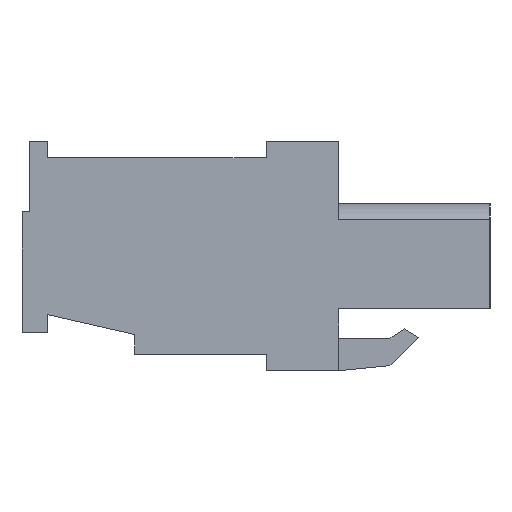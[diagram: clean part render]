
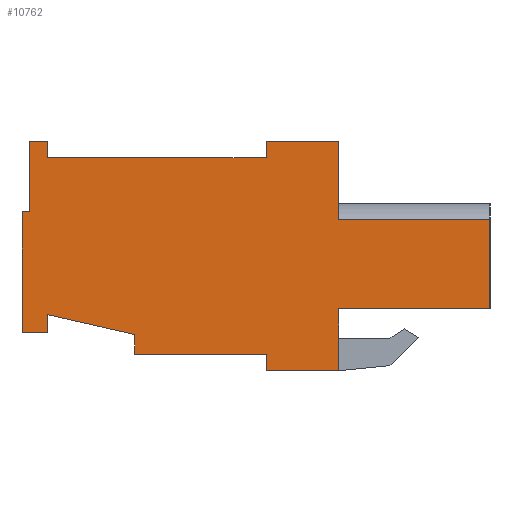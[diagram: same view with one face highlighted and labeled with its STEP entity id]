
A CAD part, left-side view. The second image highlights one B-rep face of the part: STEP entity #10762.
In plain terms, the highlighted planar face has unit normal (-1, 0, 0).
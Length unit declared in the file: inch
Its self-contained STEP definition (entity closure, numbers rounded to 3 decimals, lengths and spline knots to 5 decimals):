
#1=DIRECTION('',(0.,1.,0.));
#2=VECTOR('',#1,0.33);
#3=CARTESIAN_POINT('',(-1.2795,-0.33,0.08));
#4=LINE('',#3,#2);
#5=DIRECTION('',(0.,0.,-1.));
#6=VECTOR('',#5,0.195);
#7=CARTESIAN_POINT('',(-1.2795,-0.33,0.08));
#8=LINE('',#7,#6);
#9=DIRECTION('',(0.,1.,0.));
#10=VECTOR('',#9,0.33);
#11=CARTESIAN_POINT('',(-1.2795,-0.33,-0.115));
#12=LINE('',#11,#10);
#13=DIRECTION('',(0.,0.,-1.));
#14=VECTOR('',#13,0.135);
#15=CARTESIAN_POINT('',(-1.2795,0.,-0.115));
#16=LINE('',#15,#14);
#17=DIRECTION('',(0.,1.,0.));
#18=VECTOR('',#17,0.158);
#19=CARTESIAN_POINT('',(-1.2795,0.,-0.25));
#20=LINE('',#19,#18);
#21=DIRECTION('',(0.,0.,1.));
#22=VECTOR('',#21,0.0355);
#23=CARTESIAN_POINT('',(-1.2795,0.158,-0.25));
#24=LINE('',#23,#22);
#25=DIRECTION('',(0.,1.,0.));
#26=VECTOR('',#25,0.28594);
#27=CARTESIAN_POINT('',(-1.2795,0.158,-0.2145));
#28=LINE('',#27,#26);
#29=DIRECTION('',(0.,0.,1.));
#30=VECTOR('',#29,0.04341);
#31=CARTESIAN_POINT('',(-1.2795,0.44394,-0.2145));
#32=LINE('',#31,#30);
#33=DIRECTION('',(0.,0.975,0.222));
#34=VECTOR('',#33,0.19543);
#35=CARTESIAN_POINT('',(-1.2795,0.44394,-0.17109));
#36=LINE('',#35,#34);
#37=DIRECTION('',(0.,0.,-1.));
#38=VECTOR('',#37,0.03937);
#39=CARTESIAN_POINT('',(-1.2795,0.6345,-0.12776));
#40=LINE('',#39,#38);
#41=DIRECTION('',(0.,1.,0.));
#42=VECTOR('',#41,0.0555);
#43=CARTESIAN_POINT('',(-1.2795,0.6345,-0.16713));
#44=LINE('',#43,#42);
#45=DIRECTION('',(0.,0.,1.));
#46=VECTOR('',#45,0.26368);
#47=CARTESIAN_POINT('',(-1.2795,0.69,-0.16713));
#48=LINE('',#47,#46);
#49=DIRECTION('',(0.,-1.,0.));
#50=VECTOR('',#49,0.01613);
#51=CARTESIAN_POINT('',(-1.2795,0.69,0.09656));
#52=LINE('',#51,#50);
#53=DIRECTION('',(0.,0.,1.));
#54=VECTOR('',#53,0.15344);
#55=CARTESIAN_POINT('',(-1.2795,0.67387,0.09656));
#56=LINE('',#55,#54);
#57=DIRECTION('',(0.,-1.,0.));
#58=VECTOR('',#57,0.03937);
#59=CARTESIAN_POINT('',(-1.2795,0.67387,0.25));
#60=LINE('',#59,#58);
#61=DIRECTION('',(0.,0.,-1.));
#62=VECTOR('',#61,0.0355);
#63=CARTESIAN_POINT('',(-1.2795,0.6345,0.25));
#64=LINE('',#63,#62);
#65=DIRECTION('',(0.,-1.,0.));
#66=VECTOR('',#65,0.4765);
#67=CARTESIAN_POINT('',(-1.2795,0.6345,0.2145));
#68=LINE('',#67,#66);
#69=DIRECTION('',(0.,0.,1.));
#70=VECTOR('',#69,0.0355);
#71=CARTESIAN_POINT('',(-1.2795,0.158,0.2145));
#72=LINE('',#71,#70);
#73=DIRECTION('',(0.,-1.,0.));
#74=VECTOR('',#73,0.158);
#75=CARTESIAN_POINT('',(-1.2795,0.158,0.25));
#76=LINE('',#75,#74);
#86=DIRECTION('',(0.,0.,1.));
#87=VECTOR('',#86,0.17);
#88=CARTESIAN_POINT('',(-1.2795,0.,0.08));
#89=LINE('',#88,#87);
#8255=CARTESIAN_POINT('',(-1.2795,-0.33,-0.115));
#8256=CARTESIAN_POINT('',(-1.2795,0.,-0.115));
#8257=VERTEX_POINT('',#8255);
#8258=VERTEX_POINT('',#8256);
#8259=CARTESIAN_POINT('',(-1.2795,0.,-0.25));
#8260=VERTEX_POINT('',#8259);
#8261=CARTESIAN_POINT('',(-1.2795,0.158,-0.25));
#8262=VERTEX_POINT('',#8261);
#8263=CARTESIAN_POINT('',(-1.2795,0.158,-0.2145));
#8264=VERTEX_POINT('',#8263);
#8265=CARTESIAN_POINT('',(-1.2795,0.44394,-0.2145));
#8266=VERTEX_POINT('',#8265);
#8267=CARTESIAN_POINT('',(-1.2795,0.44394,-0.17109));
#8268=VERTEX_POINT('',#8267);
#8269=CARTESIAN_POINT('',(-1.2795,0.6345,-0.12776));
#8270=VERTEX_POINT('',#8269);
#8271=CARTESIAN_POINT('',(-1.2795,0.6345,-0.16713));
#8272=VERTEX_POINT('',#8271);
#8273=CARTESIAN_POINT('',(-1.2795,0.69,-0.16713));
#8274=VERTEX_POINT('',#8273);
#8275=CARTESIAN_POINT('',(-1.2795,0.69,0.09656));
#8276=VERTEX_POINT('',#8275);
#8277=CARTESIAN_POINT('',(-1.2795,0.67387,0.09656));
#8278=VERTEX_POINT('',#8277);
#8279=CARTESIAN_POINT('',(-1.2795,0.67387,0.25));
#8280=VERTEX_POINT('',#8279);
#8281=CARTESIAN_POINT('',(-1.2795,0.6345,0.25));
#8282=VERTEX_POINT('',#8281);
#8283=CARTESIAN_POINT('',(-1.2795,0.6345,0.2145));
#8284=VERTEX_POINT('',#8283);
#8285=CARTESIAN_POINT('',(-1.2795,0.158,0.2145));
#8286=VERTEX_POINT('',#8285);
#8287=CARTESIAN_POINT('',(-1.2795,0.158,0.25));
#8288=VERTEX_POINT('',#8287);
#8289=CARTESIAN_POINT('',(-1.2795,0.,0.25));
#8290=VERTEX_POINT('',#8289);
#10639=CARTESIAN_POINT('',(-1.2795,-0.33,0.08));
#10640=CARTESIAN_POINT('',(-1.2795,0.,0.08));
#10641=VERTEX_POINT('',#10639);
#10642=VERTEX_POINT('',#10640);
#10715=CARTESIAN_POINT('',(-1.2795,0.,0.));
#10716=DIRECTION('',(1.,0.,0.));
#10717=DIRECTION('',(0.,0.,-1.));
#10718=AXIS2_PLACEMENT_3D('',#10715,#10716,#10717);
#10719=PLANE('',#10718);
#10721=ORIENTED_EDGE('',*,*,#10720,.F.);
#10723=ORIENTED_EDGE('',*,*,#10722,.F.);
#10725=ORIENTED_EDGE('',*,*,#10724,.T.);
#10727=ORIENTED_EDGE('',*,*,#10726,.T.);
#10729=ORIENTED_EDGE('',*,*,#10728,.T.);
#10731=ORIENTED_EDGE('',*,*,#10730,.T.);
#10733=ORIENTED_EDGE('',*,*,#10732,.T.);
#10735=ORIENTED_EDGE('',*,*,#10734,.T.);
#10737=ORIENTED_EDGE('',*,*,#10736,.T.);
#10739=ORIENTED_EDGE('',*,*,#10738,.T.);
#10741=ORIENTED_EDGE('',*,*,#10740,.T.);
#10743=ORIENTED_EDGE('',*,*,#10742,.T.);
#10745=ORIENTED_EDGE('',*,*,#10744,.T.);
#10747=ORIENTED_EDGE('',*,*,#10746,.T.);
#10749=ORIENTED_EDGE('',*,*,#10748,.T.);
#10751=ORIENTED_EDGE('',*,*,#10750,.T.);
#10753=ORIENTED_EDGE('',*,*,#10752,.T.);
#10755=ORIENTED_EDGE('',*,*,#10754,.T.);
#10757=ORIENTED_EDGE('',*,*,#10756,.T.);
#10759=ORIENTED_EDGE('',*,*,#10758,.T.);
#10760=EDGE_LOOP('',(#10721,#10723,#10725,#10727,#10729,#10731,#10733,#10735,
#10737,#10739,#10741,#10743,#10745,#10747,#10749,#10751,#10753,#10755,#10757,
#10759));
#10761=FACE_OUTER_BOUND('',#10760,.F.);
#10762=ADVANCED_FACE('',(#10761),#10719,.F.);
#10720=EDGE_CURVE('',#10642,#8290,#89,.T.);
#10722=EDGE_CURVE('',#10641,#10642,#4,.T.);
#10724=EDGE_CURVE('',#10641,#8257,#8,.T.);
#10726=EDGE_CURVE('',#8257,#8258,#12,.T.);
#10728=EDGE_CURVE('',#8258,#8260,#16,.T.);
#10730=EDGE_CURVE('',#8260,#8262,#20,.T.);
#10732=EDGE_CURVE('',#8262,#8264,#24,.T.);
#10734=EDGE_CURVE('',#8264,#8266,#28,.T.);
#10736=EDGE_CURVE('',#8266,#8268,#32,.T.);
#10738=EDGE_CURVE('',#8268,#8270,#36,.T.);
#10740=EDGE_CURVE('',#8270,#8272,#40,.T.);
#10742=EDGE_CURVE('',#8272,#8274,#44,.T.);
#10744=EDGE_CURVE('',#8274,#8276,#48,.T.);
#10746=EDGE_CURVE('',#8276,#8278,#52,.T.);
#10748=EDGE_CURVE('',#8278,#8280,#56,.T.);
#10750=EDGE_CURVE('',#8280,#8282,#60,.T.);
#10752=EDGE_CURVE('',#8282,#8284,#64,.T.);
#10754=EDGE_CURVE('',#8284,#8286,#68,.T.);
#10756=EDGE_CURVE('',#8286,#8288,#72,.T.);
#10758=EDGE_CURVE('',#8288,#8290,#76,.T.);
